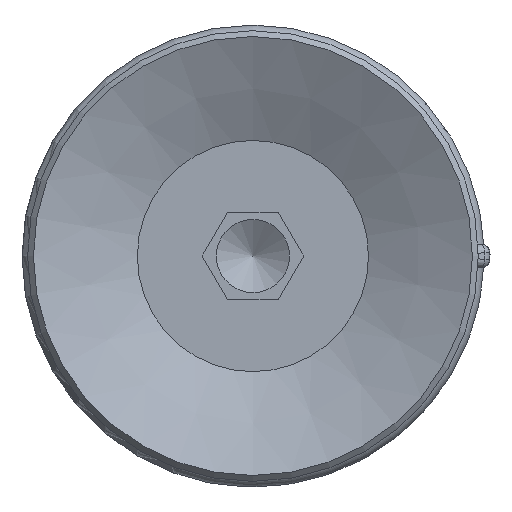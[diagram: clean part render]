
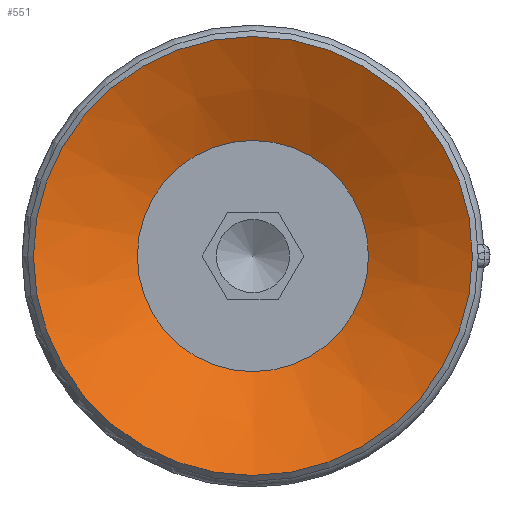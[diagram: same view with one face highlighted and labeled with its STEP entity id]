
A CAD part, front view. The second image highlights one B-rep face of the part: STEP entity #551.
In plain terms, the highlighted conical face has half-angle 64 degrees and reference radius 3.95 mm.
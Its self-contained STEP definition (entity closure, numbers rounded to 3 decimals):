
#551=ADVANCED_FACE('',(#798,#799),#800,.F.);
#798=FACE_BOUND('',#1165,.T.);
#799=FACE_OUTER_BOUND('',#1166,.T.);
#800=CONICAL_SURFACE('',#1167,3.95,1.117);
#1165=EDGE_LOOP('',(#1849));
#1166=EDGE_LOOP('',(#1850));
#1167=AXIS2_PLACEMENT_3D('',#1851,#1852,#1853);
#1849=ORIENTED_EDGE('',*,*,#2135,.F.);
#1850=ORIENTED_EDGE('',*,*,#2136,.T.);
#1851=CARTESIAN_POINT('',(0.0,-29.404,-47.168));
#1852=DIRECTION('',(-0.0,0.,1.0));
#1853=DIRECTION('',(0.0,-1.0,0.));
#2135=EDGE_CURVE('',#2455,#2455,#2456,.T.);
#2136=EDGE_CURVE('',#2457,#2457,#2458,.T.);
#2455=VERTEX_POINT('',#3374);
#2456=CIRCLE('',#3375,3.95);
#2457=VERTEX_POINT('',#3376);
#2458=CIRCLE('',#3377,7.5);
#3374=CARTESIAN_POINT('',(0.0,-33.354,-47.168));
#3375=AXIS2_PLACEMENT_3D('',#3684,#3685,#3686);
#3376=CARTESIAN_POINT('',(0.0,-36.904,-45.437));
#3377=AXIS2_PLACEMENT_3D('',#3687,#3688,#3689);
#3684=CARTESIAN_POINT('',(0.0,-29.404,-47.168));
#3685=DIRECTION('',(0.0,0.,1.0));
#3686=DIRECTION('',(0.0,-1.0,0.));
#3687=CARTESIAN_POINT('',(0.0,-29.404,-45.437));
#3688=DIRECTION('',(0.0,0.,1.0));
#3689=DIRECTION('',(0.0,-1.0,0.));
